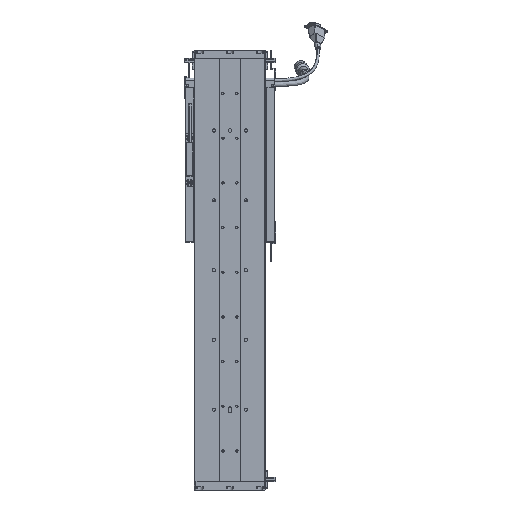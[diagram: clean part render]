
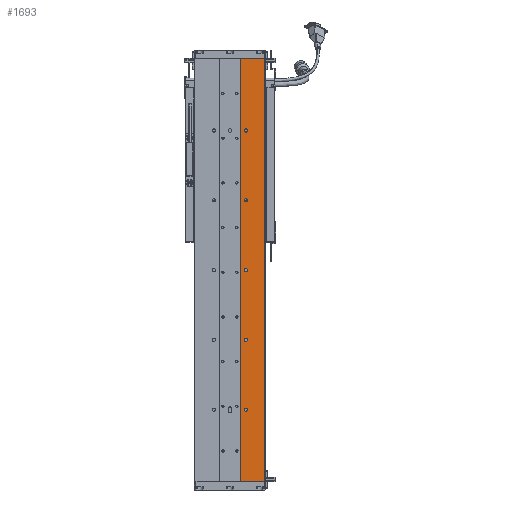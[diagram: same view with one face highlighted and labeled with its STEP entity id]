
A CAD part, front view. The second image highlights one B-rep face of the part: STEP entity #1693.
In plain terms, the highlighted planar face has unit normal (0, -1, 0).
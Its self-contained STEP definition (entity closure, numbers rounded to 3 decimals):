
#623 = DIRECTION ( 'NONE',  ( 0., 1., 0. ) ) ;
#1363 = DIRECTION ( 'NONE',  ( 0., 0., 1. ) ) ;
#1693 = ADVANCED_FACE ( 'NONE', ( #11698, #43054, #36737, #32051, #14017, #29728 ), #64044, .F. ) ;
#1952 = DIRECTION ( 'NONE',  ( 0., 1., 0. ) ) ;
#1996 = EDGE_CURVE ( 'NONE', #29618, #48584, #24207, .T. ) ;
#3193 = CARTESIAN_POINT ( 'NONE',  ( -64.681, 0.5, 0. ) ) ;
#3264 = LINE ( 'NONE', #23815, #12701 ) ;
#4273 = EDGE_CURVE ( 'NONE', #35945, #39086, #56819, .T. ) ;
#4346 = AXIS2_PLACEMENT_3D ( 'NONE', #42911, #1952, #17552 ) ;
#5284 = ORIENTED_EDGE ( 'NONE', *, *, #53047, .T. ) ;
#5380 = EDGE_CURVE ( 'NONE', #54208, #13432, #10466, .T. ) ;
#5601 = AXIS2_PLACEMENT_3D ( 'NONE', #52208, #57016, #26835 ) ;
#5684 = CARTESIAN_POINT ( 'NONE',  ( 50., 0.5, 0. ) ) ;
#5691 = DIRECTION ( 'NONE',  ( 0., 0., 1. ) ) ;
#5767 = ORIENTED_EDGE ( 'NONE', *, *, #16159, .F. ) ;
#5933 = CIRCLE ( 'NONE', #37115, 2.25 ) ;
#7028 = CARTESIAN_POINT ( 'NONE',  ( 23., 0.5, 505.25 ) ) ;
#8147 = CIRCLE ( 'NONE', #52532, 2.25 ) ;
#8913 = ORIENTED_EDGE ( 'NONE', *, *, #61549, .T. ) ;
#9262 = AXIS2_PLACEMENT_3D ( 'NONE', #3193, #13900, #53352 ) ;
#9554 = DIRECTION ( 'NONE',  ( 0., 0., 1. ) ) ;
#10331 = EDGE_LOOP ( 'NONE', ( #28025, #8913 ) ) ;
#10466 = LINE ( 'NONE', #35546, #25378 ) ;
#11243 = CARTESIAN_POINT ( 'NONE',  ( 23., 0.5, 503. ) ) ;
#11698 = FACE_BOUND ( 'NONE', #13358, .T. ) ;
#12072 = CARTESIAN_POINT ( 'NONE',  ( 15., 0.5, 0. ) ) ;
#12479 = ORIENTED_EDGE ( 'NONE', *, *, #5380, .T. ) ;
#12701 = VECTOR ( 'NONE', #63873, 1000. ) ;
#12712 = VERTEX_POINT ( 'NONE', #58630 ) ;
#13358 = EDGE_LOOP ( 'NONE', ( #5284, #41493 ) ) ;
#13432 = VERTEX_POINT ( 'NONE', #49386 ) ;
#13510 = DIRECTION ( 'NONE',  ( 0., 0., 1. ) ) ;
#13870 = AXIS2_PLACEMENT_3D ( 'NONE', #11243, #25739, #35330 ) ;
#13884 = CIRCLE ( 'NONE', #5601, 2.25 ) ;
#13900 = DIRECTION ( 'NONE',  ( 0., 1., 0. ) ) ;
#14017 = FACE_BOUND ( 'NONE', #37315, .T. ) ;
#14997 = DIRECTION ( 'NONE',  ( 0., 0., 1. ) ) ;
#15353 = CARTESIAN_POINT ( 'NONE',  ( 23., 0.5, 203. ) ) ;
#15644 = ORIENTED_EDGE ( 'NONE', *, *, #38597, .T. ) ;
#15713 = CIRCLE ( 'NONE', #35612, 2.25 ) ;
#16005 = ORIENTED_EDGE ( 'NONE', *, *, #56027, .T. ) ;
#16159 = EDGE_CURVE ( 'NONE', #54208, #39086, #3264, .T. ) ;
#16313 = CIRCLE ( 'NONE', #58273, 2.25 ) ;
#17552 = DIRECTION ( 'NONE',  ( 0., 0., 1. ) ) ;
#18941 = EDGE_CURVE ( 'NONE', #48584, #29618, #16313, .T. ) ;
#19453 = CARTESIAN_POINT ( 'NONE',  ( 23., 0.5, 503. ) ) ;
#20136 = CARTESIAN_POINT ( 'NONE',  ( 23., 0.5, 500.75 ) ) ;
#20280 = CARTESIAN_POINT ( 'NONE',  ( 23., 0.5, 403. ) ) ;
#20588 = CARTESIAN_POINT ( 'NONE',  ( 15., 0.5, 0. ) ) ;
#20679 = DIRECTION ( 'NONE',  ( 0., 0., 1. ) ) ;
#21565 = ORIENTED_EDGE ( 'NONE', *, *, #1996, .T. ) ;
#23351 = EDGE_CURVE ( 'NONE', #13432, #35945, #52330, .T. ) ;
#23813 = CARTESIAN_POINT ( 'NONE',  ( 23., 0.5, 400.75 ) ) ;
#23815 = CARTESIAN_POINT ( 'NONE',  ( -64.681, 0.5, 0. ) ) ;
#23825 = VERTEX_POINT ( 'NONE', #42116 ) ;
#24207 = CIRCLE ( 'NONE', #13870, 2.25 ) ;
#25378 = VECTOR ( 'NONE', #14997, 1000. ) ;
#25739 = DIRECTION ( 'NONE',  ( 0., 1., 0. ) ) ;
#26347 = DIRECTION ( 'NONE',  ( 0., 1., 0. ) ) ;
#26835 = DIRECTION ( 'NONE',  ( 0., 0., 1. ) ) ;
#27764 = CARTESIAN_POINT ( 'NONE',  ( -64.681, 0.5, 606. ) ) ;
#28025 = ORIENTED_EDGE ( 'NONE', *, *, #37301, .T. ) ;
#28828 = DIRECTION ( 'NONE',  ( 0., 1., 0. ) ) ;
#29618 = VERTEX_POINT ( 'NONE', #7028 ) ;
#29728 = FACE_OUTER_BOUND ( 'NONE', #51487, .T. ) ;
#30490 = CARTESIAN_POINT ( 'NONE',  ( 23., 0.5, 405.25 ) ) ;
#32051 = FACE_BOUND ( 'NONE', #52309, .T. ) ;
#32522 = CIRCLE ( 'NONE', #54316, 2.25 ) ;
#33225 = AXIS2_PLACEMENT_3D ( 'NONE', #35942, #26347, #1363 ) ;
#34211 = VERTEX_POINT ( 'NONE', #23813 ) ;
#35191 = DIRECTION ( 'NONE',  ( 0., 0., -1. ) ) ;
#35330 = DIRECTION ( 'NONE',  ( 0., 0., 1. ) ) ;
#35546 = CARTESIAN_POINT ( 'NONE',  ( 50., 0.5, 0. ) ) ;
#35612 = AXIS2_PLACEMENT_3D ( 'NONE', #43493, #48743, #13510 ) ;
#35942 = CARTESIAN_POINT ( 'NONE',  ( 23., 0.5, 403. ) ) ;
#35945 = VERTEX_POINT ( 'NONE', #43500 ) ;
#36737 = FACE_BOUND ( 'NONE', #36804, .T. ) ;
#36771 = EDGE_CURVE ( 'NONE', #44197, #34211, #63625, .T. ) ;
#36804 = EDGE_LOOP ( 'NONE', ( #21565, #51806 ) ) ;
#37115 = AXIS2_PLACEMENT_3D ( 'NONE', #40769, #45590, #20679 ) ;
#37301 = EDGE_CURVE ( 'NONE', #64331, #23825, #8147, .T. ) ;
#37315 = EDGE_LOOP ( 'NONE', ( #61297, #15644 ) ) ;
#38597 = EDGE_CURVE ( 'NONE', #55056, #40355, #13884, .T. ) ;
#38776 = DIRECTION ( 'NONE',  ( 0., 0., 1. ) ) ;
#39086 = VERTEX_POINT ( 'NONE', #12072 ) ;
#40355 = VERTEX_POINT ( 'NONE', #61863 ) ;
#40620 = EDGE_CURVE ( 'NONE', #51166, #12712, #5933, .T. ) ;
#40769 = CARTESIAN_POINT ( 'NONE',  ( 23., 0.5, 103. ) ) ;
#41493 = ORIENTED_EDGE ( 'NONE', *, *, #40620, .T. ) ;
#41527 = ORIENTED_EDGE ( 'NONE', *, *, #36771, .T. ) ;
#42116 = CARTESIAN_POINT ( 'NONE',  ( 23., 0.5, 200.75 ) ) ;
#42698 = VECTOR ( 'NONE', #35191, 1000. ) ;
#42911 = CARTESIAN_POINT ( 'NONE',  ( 23., 0.5, 303. ) ) ;
#43054 = FACE_BOUND ( 'NONE', #10331, .T. ) ;
#43493 = CARTESIAN_POINT ( 'NONE',  ( 23., 0.5, 103. ) ) ;
#43500 = CARTESIAN_POINT ( 'NONE',  ( 15., 0.5, 606. ) ) ;
#43571 = CARTESIAN_POINT ( 'NONE',  ( 23., 0.5, 205.25 ) ) ;
#43705 = CIRCLE ( 'NONE', #4346, 2.25 ) ;
#44197 = VERTEX_POINT ( 'NONE', #30490 ) ;
#45207 = DIRECTION ( 'NONE',  ( 0., 0., 1. ) ) ;
#45590 = DIRECTION ( 'NONE',  ( 0., 1., 0. ) ) ;
#47474 = CARTESIAN_POINT ( 'NONE',  ( 23., 0.5, 100.75 ) ) ;
#48218 = EDGE_CURVE ( 'NONE', #40355, #55056, #43705, .T. ) ;
#48584 = VERTEX_POINT ( 'NONE', #20136 ) ;
#48743 = DIRECTION ( 'NONE',  ( 0., 1., 0. ) ) ;
#49386 = CARTESIAN_POINT ( 'NONE',  ( 50., 0.5, 606. ) ) ;
#51166 = VERTEX_POINT ( 'NONE', #47474 ) ;
#51487 = EDGE_LOOP ( 'NONE', ( #5767, #12479, #56636, #54237 ) ) ;
#51806 = ORIENTED_EDGE ( 'NONE', *, *, #18941, .T. ) ;
#52208 = CARTESIAN_POINT ( 'NONE',  ( 23., 0.5, 303. ) ) ;
#52309 = EDGE_LOOP ( 'NONE', ( #41527, #16005 ) ) ;
#52330 = LINE ( 'NONE', #27764, #53820 ) ;
#52532 = AXIS2_PLACEMENT_3D ( 'NONE', #15353, #623, #5691 ) ;
#52544 = CARTESIAN_POINT ( 'NONE',  ( 23., 0.5, 300.75 ) ) ;
#53047 = EDGE_CURVE ( 'NONE', #12712, #51166, #15713, .T. ) ;
#53352 = DIRECTION ( 'NONE',  ( 0., 0., 1. ) ) ;
#53820 = VECTOR ( 'NONE', #63636, 1000. ) ;
#54208 = VERTEX_POINT ( 'NONE', #5684 ) ;
#54237 = ORIENTED_EDGE ( 'NONE', *, *, #4273, .T. ) ;
#54316 = AXIS2_PLACEMENT_3D ( 'NONE', #20280, #55489, #45207 ) ;
#55056 = VERTEX_POINT ( 'NONE', #52544 ) ;
#55489 = DIRECTION ( 'NONE',  ( 0., 1., 0. ) ) ;
#56027 = EDGE_CURVE ( 'NONE', #34211, #44197, #32522, .T. ) ;
#56636 = ORIENTED_EDGE ( 'NONE', *, *, #23351, .T. ) ;
#56646 = CIRCLE ( 'NONE', #61354, 2.25 ) ;
#56819 = LINE ( 'NONE', #20588, #42698 ) ;
#57016 = DIRECTION ( 'NONE',  ( 0., 1., 0. ) ) ;
#57859 = CARTESIAN_POINT ( 'NONE',  ( 23., 0.5, 203. ) ) ;
#58273 = AXIS2_PLACEMENT_3D ( 'NONE', #19453, #28828, #9554 ) ;
#58630 = CARTESIAN_POINT ( 'NONE',  ( 23., 0.5, 105.25 ) ) ;
#61297 = ORIENTED_EDGE ( 'NONE', *, *, #48218, .T. ) ;
#61354 = AXIS2_PLACEMENT_3D ( 'NONE', #57859, #63770, #38776 ) ;
#61549 = EDGE_CURVE ( 'NONE', #23825, #64331, #56646, .T. ) ;
#61863 = CARTESIAN_POINT ( 'NONE',  ( 23., 0.5, 305.25 ) ) ;
#63625 = CIRCLE ( 'NONE', #33225, 2.25 ) ;
#63636 = DIRECTION ( 'NONE',  ( -1., 0., 0. ) ) ;
#63770 = DIRECTION ( 'NONE',  ( 0., 1., 0. ) ) ;
#63873 = DIRECTION ( 'NONE',  ( -1., 0., 0. ) ) ;
#64044 = PLANE ( 'NONE',  #9262 ) ;
#64331 = VERTEX_POINT ( 'NONE', #43571 ) ;
